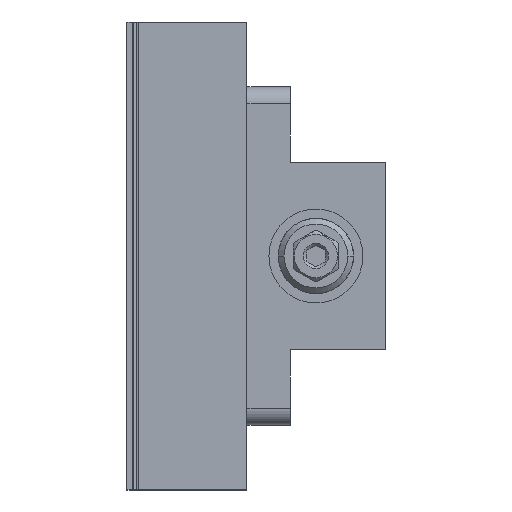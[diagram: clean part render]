
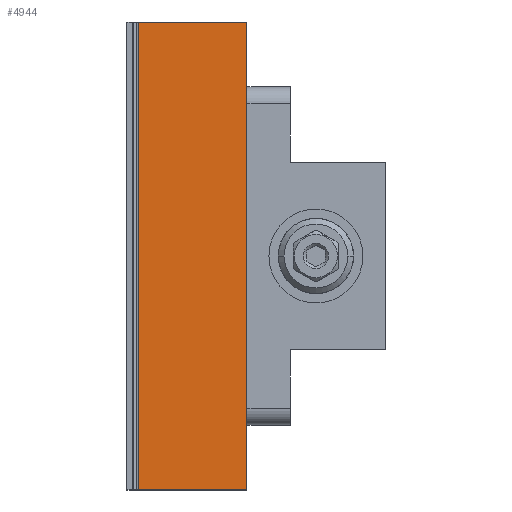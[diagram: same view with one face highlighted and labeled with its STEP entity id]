
A CAD part, left-side view. The second image highlights one B-rep face of the part: STEP entity #4944.
In plain terms, the highlighted planar face has unit normal (-1, 0, 0).
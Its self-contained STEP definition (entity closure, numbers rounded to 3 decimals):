
#367 = FACE_OUTER_BOUND ( 'NONE', #1800, .T. ) ;
#493 = VERTEX_POINT ( 'NONE', #928 ) ;
#916 = LINE ( 'NONE', #2541, #5171 ) ;
#928 = CARTESIAN_POINT ( 'NONE',  ( -16.5, 47.35, 62.3 ) ) ;
#972 = EDGE_CURVE ( 'NONE', #4026, #3824, #3425, .T. ) ;
#1137 = VERTEX_POINT ( 'NONE', #3816 ) ;
#1147 = CARTESIAN_POINT ( 'NONE',  ( -16.5, 50.35, -62.3 ) ) ;
#1250 = ORIENTED_EDGE ( 'NONE', *, *, #4244, .T. ) ;
#1314 = LINE ( 'NONE', #2958, #3420 ) ;
#1358 = CARTESIAN_POINT ( 'NONE',  ( -16.5, 18.35, 45. ) ) ;
#1565 = ORIENTED_EDGE ( 'NONE', *, *, #4367, .T. ) ;
#1800 = EDGE_LOOP ( 'NONE', ( #1250, #2742, #1565, #3416 ) ) ;
#1986 = DIRECTION ( 'NONE',  ( 0., -1., 0. ) ) ;
#2182 = DIRECTION ( 'NONE',  ( 0., 0., -1. ) ) ;
#2541 = CARTESIAN_POINT ( 'NONE',  ( -16.5, 47.35, -62.3 ) ) ;
#2742 = ORIENTED_EDGE ( 'NONE', *, *, #5365, .F. ) ;
#2791 = CARTESIAN_POINT ( 'NONE',  ( -16.5, 18.35, -62.3 ) ) ;
#2887 = VECTOR ( 'NONE', #1986, 1000. ) ;
#2958 = CARTESIAN_POINT ( 'NONE',  ( -16.5, 18.35, 62.3 ) ) ;
#2999 = DIRECTION ( 'NONE',  ( 0., 0., 1. ) ) ;
#3272 = LINE ( 'NONE', #1147, #2887 ) ;
#3334 = CARTESIAN_POINT ( 'NONE',  ( -16.5, 6.85, 25. ) ) ;
#3416 = ORIENTED_EDGE ( 'NONE', *, *, #972, .T. ) ;
#3420 = VECTOR ( 'NONE', #4231, 1000. ) ;
#3425 = LINE ( 'NONE', #1358, #4684 ) ;
#3768 = CARTESIAN_POINT ( 'NONE',  ( -16.5, 18.35, 62.3 ) ) ;
#3816 = CARTESIAN_POINT ( 'NONE',  ( -16.5, 47.35, -62.3 ) ) ;
#3824 = VERTEX_POINT ( 'NONE', #3768 ) ;
#4026 = VERTEX_POINT ( 'NONE', #2791 ) ;
#4231 = DIRECTION ( 'NONE',  ( 0., 1., 0. ) ) ;
#4236 = DIRECTION ( 'NONE',  ( 0., 0., 1. ) ) ;
#4244 = EDGE_CURVE ( 'NONE', #3824, #493, #1314, .T. ) ;
#4266 = DIRECTION ( 'NONE',  ( 1., 0., 0. ) ) ;
#4367 = EDGE_CURVE ( 'NONE', #1137, #4026, #3272, .T. ) ;
#4684 = VECTOR ( 'NONE', #2999, 1000. ) ;
#4944 = ADVANCED_FACE ( 'NONE', ( #367 ), #5046, .F. ) ;
#5046 = PLANE ( 'NONE',  #5299 ) ;
#5171 = VECTOR ( 'NONE', #4236, 1000. ) ;
#5299 = AXIS2_PLACEMENT_3D ( 'NONE', #3334, #4266, #2182 ) ;
#5365 = EDGE_CURVE ( 'NONE', #1137, #493, #916, .T. ) ;
